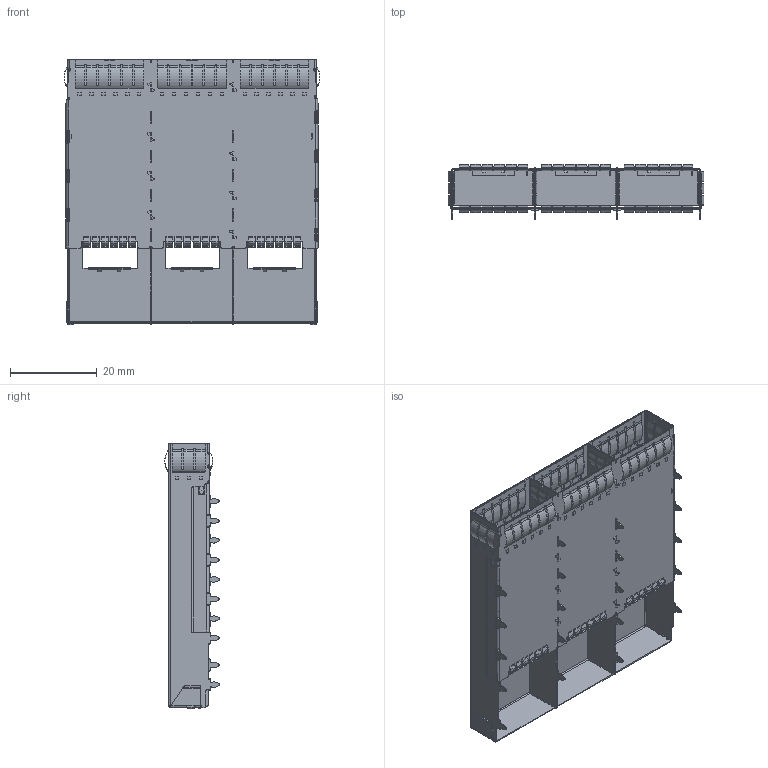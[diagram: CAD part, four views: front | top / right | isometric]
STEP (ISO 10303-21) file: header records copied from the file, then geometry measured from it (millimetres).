
FILE_DESCRIPTION(/* description */ (''),/* implementation_level */ '2;1');
FILE_NAME(/* name */ 'QSFP28 1X3 CAGE 散热方孔 后0脚_3D.stp',/* time_stamp */ '2026-08-29T16:21:26+08:00',/* author */ (''),/* organization */ (''),/* preprocessor_version */ 'ST-DEVELOPER v16.7',/* originating_system */ 'SIEMENS PLM Software NX 1847',/* authorisation */ '');
FILE_SCHEMA (('AUTOMOTIVE_DESIGN { 1 0 10303 214 3 1 1 1 }'));
Products named in the file (1): Admi29F470BBiexc
Bounding box: 58.91 x 12.58 x 61.22 mm (x, y, z)
Volume: 2054.4 mm3; surface area: 18224 mm2
Topology: 1 solids, 7 shells, 3993 faces, 10368 edges, 6309 vertices
Faces by surface type: plane 2321, cylinder 1517, bspline 155
Entity records: 129181 total; most frequent: CARTESIAN_POINT 30669, ORIENTED_EDGE 20736, DIRECTION 20713, EDGE_CURVE 10368, AXIS2_PLACEMENT_3D 7079, LINE 6555, VECTOR 6555, VERTEX_POINT 6309
